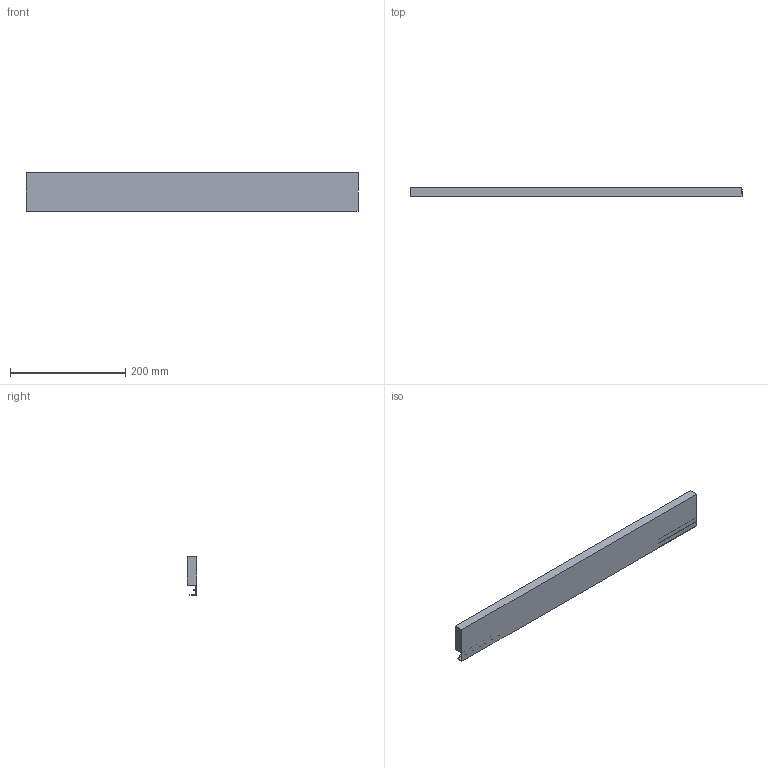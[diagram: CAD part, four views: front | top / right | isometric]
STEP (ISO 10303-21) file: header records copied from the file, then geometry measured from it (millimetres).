
FILE_DESCRIPTION (( 'STEP AP214' ), '1' );
FILE_NAME ('Innenschub-Blendenprofil_KAB700_S16.step', '2010-09-23T12:26:50', ( 'grass' ), ( '' ), 'SwSTEP 2.0', 'SolidWorks 2010', '' );
FILE_SCHEMA (( 'AUTOMOTIVE_DESIGN' ));
Length unit declared in the file: millimetre
Products named in the file (1): Innenschub-Blendenprofil_KAB700_S16
Bounding box: 577 x 15.9 x 67.6 mm (x, y, z)
Volume: 478418.2 mm3; surface area: 114900.4 mm2
Topology: 1 solids, 1 shells, 17 faces, 42 edges, 28 vertices
Faces by surface type: plane 15, cylinder 2
Entity records: 534 total; most frequent: CARTESIAN_POINT 88, ORIENTED_EDGE 84, DIRECTION 82, EDGE_CURVE 42, VECTOR 38, LINE 38, VERTEX_POINT 28, AXIS2_PLACEMENT_3D 22
